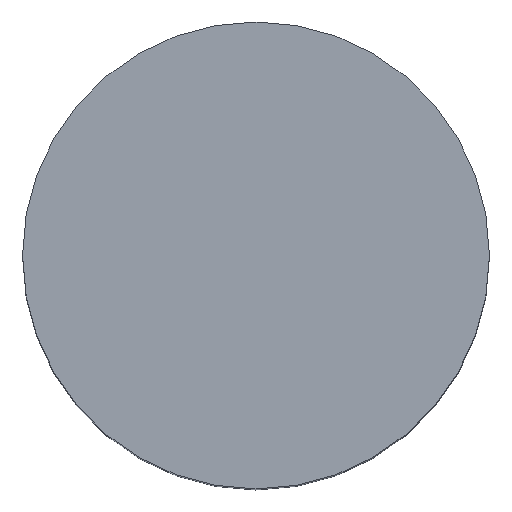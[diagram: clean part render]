
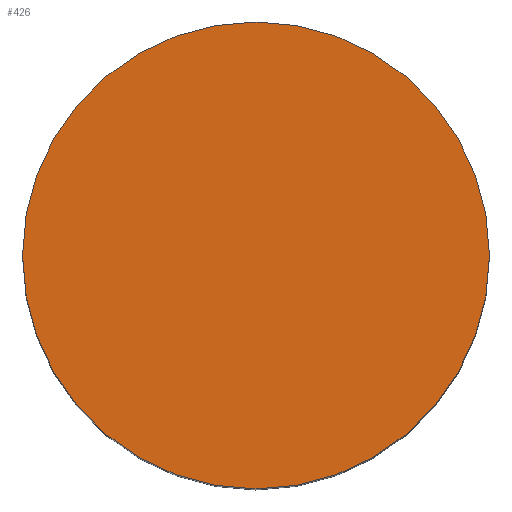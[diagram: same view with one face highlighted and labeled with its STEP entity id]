
A CAD part, top view. The second image highlights one B-rep face of the part: STEP entity #426.
In plain terms, the highlighted planar face has unit normal (0, 0, 1).
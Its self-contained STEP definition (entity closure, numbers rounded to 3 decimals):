
#174=PLANE('',#2576);
#292=FACE_OUTER_BOUND('',#647,.T.);
#426=ADVANCED_FACE('',(#292),#174,.T.);
#450=CIRCLE('',#2574,0.75);
#647=EDGE_LOOP('',(#1879));
#1879=ORIENTED_EDGE('',*,*,#2441,.F.);
#2107=VERTEX_POINT('',#5326);
#2441=EDGE_CURVE('',#2107,#2107,#450,.T.);
#2574=AXIS2_PLACEMENT_3D('',#5325,#2951,#2952);
#2576=AXIS2_PLACEMENT_3D('',#5328,#2955,#2956);
#2951=DIRECTION('',(0.,0.,-1.));
#2952=DIRECTION('',(1.,0.,0.));
#2955=DIRECTION('',(0.,0.,1.));
#2956=DIRECTION('',(1.,0.,0.));
#5325=CARTESIAN_POINT('',(0.,0.,34.44));
#5326=CARTESIAN_POINT('',(0.75,0.,34.44));
#5328=CARTESIAN_POINT('',(0.,0.,34.44));
